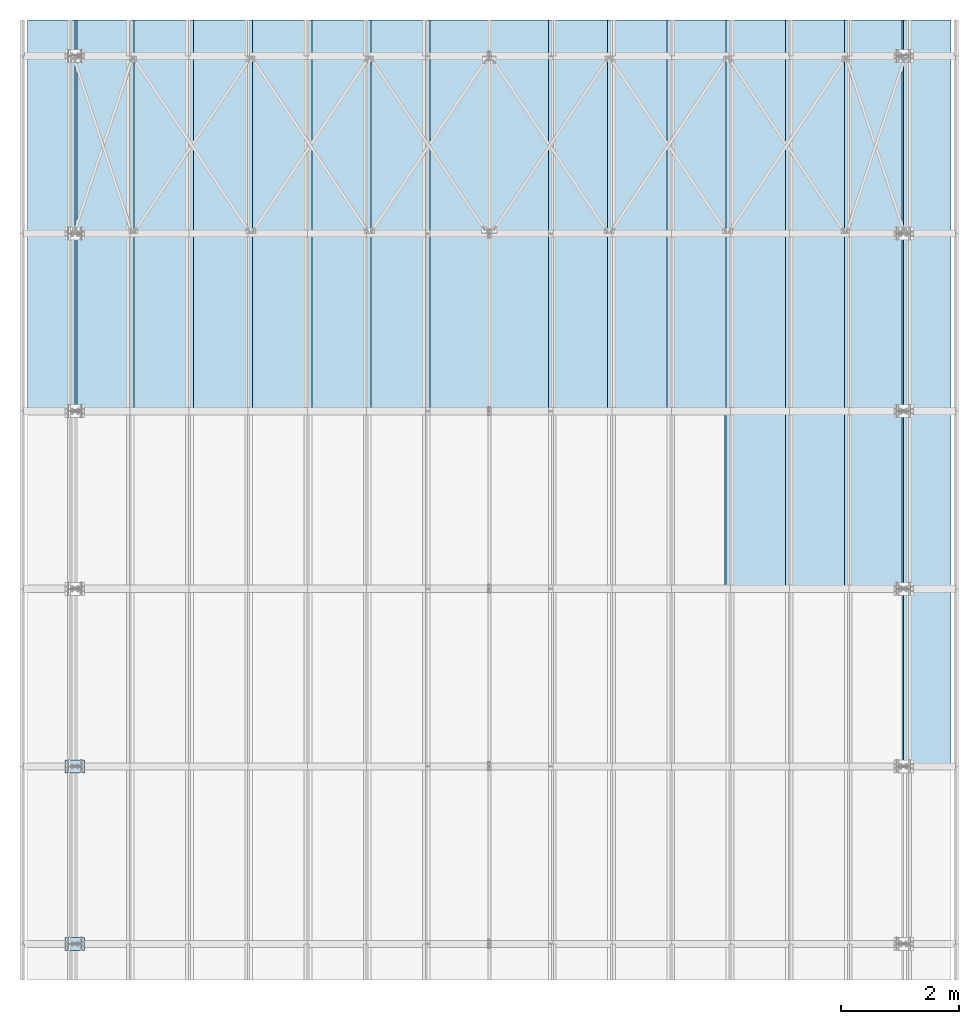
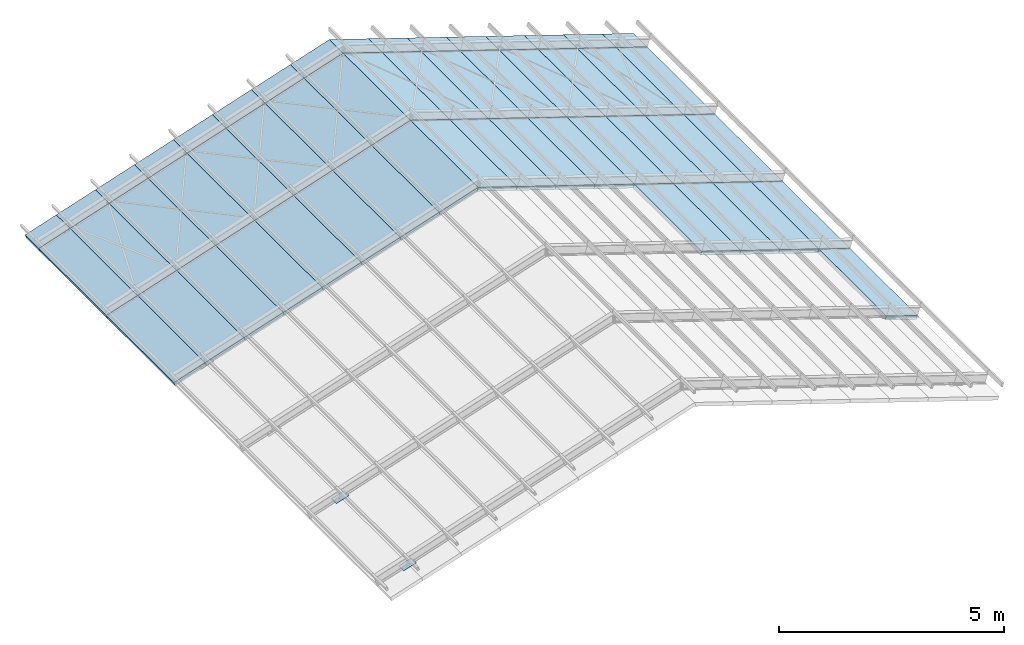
# One storey, part 4 of 53: 53 slabs, 2 plates.
"""IFC4 building model written with IfcOpenShell, lengths in metres."""

from ifc_helpers import new_model, si_unit, frame, origin_with_axes, place, context, project, spatial, polyline, outline, extrude, material, type_object, element, save


model = new_model("IFC4")

# Units and contexts
model_context = context("Model", 3, precision=1e-05, world=origin_with_axes())
ifc_project = project(units=[si_unit("LENGTHUNIT", "METRE"), si_unit("AREAUNIT", "SQUARE_METRE"), si_unit("VOLUMEUNIT", "CUBIC_METRE"), si_unit("MASSUNIT", "GRAM", prefix="KILO"), si_unit("TIMEUNIT", "SECOND"), si_unit("PLANEANGLEUNIT", "RADIAN"), si_unit("SOLIDANGLEUNIT", "STERADIAN"), si_unit("THERMODYNAMICTEMPERATUREUNIT", "DEGREE_CELSIUS")], contexts=[model_context])

# Site, building, storey
placement_1 = place(None, origin_with_axes())
site = spatial("IfcSite", under=ifc_project, at=placement_1, Name="Italia", CompositionType="ELEMENT")
building = spatial("IfcBuilding", under=site, at=placement_1, Name="Capannone", CompositionType="ELEMENT")
storey_placement = place(None, frame((0.0, 0.0, 5.550000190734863), z_axis=(0.0, 0.0, 1.0), x_axis=(1.0, 0.0, 0.0)))
storey = spatial("IfcBuildingStorey", under=building, at=storey_placement, Name="Storey 1", CompositionType="ELEMENT", Elevation=5.550000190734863)

# Plates
plate_type_1 = type_object("IfcPlateType", Name="Collegamenti 0101_0001 0103_0003 0105_0005 0107_0007 0109_0009 0111_0011", PredefinedType="SHEET")
placement_2 = place(placement_1, origin_with_axes())
plate_1_placement = place(placement_2, origin_with_axes())
element("IfcPlate", 1, at=plate_1_placement, inside=storey, type_object=plate_type_1, Name="Collegamenti 0101_0001 0103_0003 0105_0005 0107_0007 0109_0009 0111_0011", context=model_context, shape_type="SweptSolid", body=[
    extrude(outline(polyline([(0.0, 0.0), (0.22, 0.0), (0.22, -0.34504), (0.0, -0.34504), (0.0, 0.0)])), frame((0.163898, 0.11, 5.58806), z_axis=(-0.312147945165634, 0.0, 0.950033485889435), x_axis=(0.0, -1.0, 0.0)), (0.0, 0.0, 1.0), 0.0150003),
])
plate_type_2 = type_object("IfcPlateType", Name="Collegamenti 0101_0001 0103_0003 0105_0005 0107_0007 0109_0009 0111_0011", PredefinedType="SHEET")
plate_2_placement = place(placement_2, origin_with_axes())
element("IfcPlate", 2, at=plate_2_placement, inside=storey, type_object=plate_type_2, Name="Collegamenti 0101_0001 0103_0003 0105_0005 0107_0007 0109_0009 0111_0011", context=model_context, shape_type="SweptSolid", body=[
    extrude(outline(polyline([(0.0, 0.0), (0.22, 0.0), (0.22, -0.34504), (0.0, -0.34504), (0.0, 0.0)])), frame((0.163898, 3.11, 5.58806), z_axis=(-0.312147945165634, 0.0, 0.950033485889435), x_axis=(0.0, -1.0, 0.0)), (0.0, 0.0, 1.0), 0.0150003),
])

# Slabs
ifc_material_1 = material(Name="Concrete", Category="Concrete")
slab_type_1 = type_object("IfcSlabType", Name="1 Copertura", PredefinedType="FLOOR", material=ifc_material_1)
slab_1_placement = place(placement_2, origin_with_axes())
element("IfcSlab", 3, at=slab_1_placement, inside=storey, type_object=slab_type_1, Name="141", context=model_context, shape_type="SweptSolid", body=[
    extrude(outline(polyline([(0.0, 0.0), (0.61, 0.0), (0.61, 1.0526), (0.0, 1.0526), (0.0, 0.0)])), frame((0.0, 15.0, 5.55), z_axis=(0.312152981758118, 0.0, -0.950031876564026), x_axis=(0.0, 1.0, 0.0)), (0.0, 0.0, 1.0), 0.0999999),
])
ifc_material_2 = material(Name="Concrete", Category="Concrete")
slab_type_2 = type_object("IfcSlabType", Name="1 Copertura", PredefinedType="FLOOR", material=ifc_material_2)
slab_2_placement = place(placement_2, origin_with_axes())
element("IfcSlab", 4, at=slab_2_placement, inside=storey, type_object=slab_type_2, Name="142", context=model_context, shape_type="SweptSolid", body=[
    extrude(outline(polyline([(0.0, 0.0), (0.61, 0.0), (0.61, 1.0526), (0.0, 1.0526), (0.0, 0.0)])), frame((1.0, 15.0, 5.87857), z_axis=(0.312153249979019, 0.0, -0.950031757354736), x_axis=(0.0, 1.0, 0.0)), (0.0, 0.0, 1.0), 0.0999999),
])
ifc_material_3 = material(Name="Concrete", Category="Concrete")
slab_type_3 = type_object("IfcSlabType", Name="1 Copertura", PredefinedType="FLOOR", material=ifc_material_3)
slab_3_placement = place(placement_2, origin_with_axes())
element("IfcSlab", 5, at=slab_3_placement, inside=storey, type_object=slab_type_3, Name="143", context=model_context, shape_type="SweptSolid", body=[
    extrude(outline(polyline([(0.0, 0.0), (0.61, 0.0), (0.61, 1.0526), (0.0, 1.0526), (0.0, 0.0)])), frame((2.0, 15.0, 6.20714), z_axis=(0.312154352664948, 0.0, -0.950031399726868), x_axis=(0.0, 1.0, 0.0)), (0.0, 0.0, 1.0), 0.1),
])
ifc_material_4 = material(Name="Concrete", Category="Concrete")
slab_type_4 = type_object("IfcSlabType", Name="1 Copertura", PredefinedType="FLOOR", material=ifc_material_4)
slab_4_placement = place(placement_2, origin_with_axes())
element("IfcSlab", 6, at=slab_4_placement, inside=storey, type_object=slab_type_4, Name="144", context=model_context, shape_type="SweptSolid", body=[
    extrude(outline(polyline([(0.0, 0.0), (0.61, 0.0), (0.61, 1.0526), (0.0, 1.0526), (0.0, 0.0)])), frame((3.0, 15.0, 6.53571), z_axis=(0.312154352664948, 0.0, -0.950031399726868), x_axis=(0.0, 1.0, 0.0)), (0.0, 0.0, 1.0), 0.1),
])
ifc_material_5 = material(Name="Concrete", Category="Concrete")
slab_type_5 = type_object("IfcSlabType", Name="1 Copertura", PredefinedType="FLOOR", material=ifc_material_5)
slab_5_placement = place(placement_2, origin_with_axes())
element("IfcSlab", 7, at=slab_5_placement, inside=storey, type_object=slab_type_5, Name="145", context=model_context, shape_type="SweptSolid", body=[
    extrude(outline(polyline([(0.0, 0.0), (0.61, 0.0), (0.61, 1.0526), (0.0, 1.0526), (0.0, 0.0)])), frame((4.0, 15.0, 6.86429), z_axis=(0.312152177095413, 0.0, -0.950032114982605), x_axis=(0.0, 1.0, 0.0)), (0.0, 0.0, 1.0), 0.0999999),
])
ifc_material_6 = material(Name="Concrete", Category="Concrete")
slab_type_6 = type_object("IfcSlabType", Name="1 Copertura", PredefinedType="FLOOR", material=ifc_material_6)
slab_6_placement = place(placement_2, origin_with_axes())
element("IfcSlab", 8, at=slab_6_placement, inside=storey, type_object=slab_type_6, Name="147", context=model_context, shape_type="SweptSolid", body=[
    extrude(outline(polyline([(0.0, 0.0), (0.61, 0.0), (0.61, 1.0526), (0.0, 1.0526), (0.0, 0.0)])), frame((5.0, 15.0, 7.19286), z_axis=(0.312152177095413, 0.0, -0.950032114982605), x_axis=(0.0, 1.0, 0.0)), (0.0, 0.0, 1.0), 0.0999999),
])
ifc_material_7 = material(Name="Concrete", Category="Concrete")
slab_type_7 = type_object("IfcSlabType", Name="1 Copertura", PredefinedType="FLOOR", material=ifc_material_7)
slab_7_placement = place(placement_2, origin_with_axes())
element("IfcSlab", 9, at=slab_7_placement, inside=storey, type_object=slab_type_7, Name="148", context=model_context, shape_type="SweptSolid", body=[
    extrude(outline(polyline([(0.0, 0.0), (0.61, 0.0), (0.61, 1.0526), (0.0, 1.0526), (0.0, 0.0)])), frame((6.0, 15.0, 7.52143), z_axis=(0.312152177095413, 0.0, -0.950032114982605), x_axis=(0.0, 1.0, 0.0)), (0.0, 0.0, 1.0), 0.0999999),
])
ifc_material_8 = material(Name="Concrete", Category="Concrete")
slab_type_8 = type_object("IfcSlabType", Name="1 Copertura", PredefinedType="FLOOR", material=ifc_material_8)
slab_8_placement = place(placement_2, origin_with_axes())
element("IfcSlab", 10, at=slab_8_placement, inside=storey, type_object=slab_type_8, Name="149", context=model_context, shape_type="SweptSolid", body=[
    extrude(outline(polyline([(0.0, 0.0), (0.61, 0.0), (0.61, 0.842077), (0.0, 0.842077), (0.0, 0.0)])), frame((-0.8, 15.0, 5.28714), z_axis=(0.312153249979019, 0.0, -0.950031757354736), x_axis=(0.0, 1.0, 0.0)), (0.0, 0.0, 1.0), 0.0999999),
])
ifc_material_9 = material(Name="Concrete", Category="Concrete")
slab_type_9 = type_object("IfcSlabType", Name="1 Copertura", PredefinedType="FLOOR", material=ifc_material_9)
slab_9_placement = place(placement_2, origin_with_axes())
element("IfcSlab", 11, at=slab_9_placement, inside=storey, type_object=slab_type_9, Name="150", context=model_context, shape_type="SweptSolid", body=[
    extrude(outline(polyline([(0.0, 0.0), (-0.61, 0.0), (-0.61, 0.842076), (0.0, 0.842076), (0.0, 0.0)])), frame((14.8, 15.0, 5.28714), z_axis=(-0.312156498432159, 0.0, -0.950030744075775), x_axis=(0.0, -1.0, 0.0)), (0.0, 0.0, 1.0), 0.1),
])
ifc_material_10 = material(Name="Concrete", Category="Concrete")
slab_type_10 = type_object("IfcSlabType", Name="1 Copertura", PredefinedType="FLOOR", material=ifc_material_10)
slab_10_placement = place(placement_2, origin_with_axes())
element("IfcSlab", 12, at=slab_10_placement, inside=storey, type_object=slab_type_10, Name="152", context=model_context, shape_type="SweptSolid", body=[
    extrude(outline(polyline([(0.0, 0.0), (-0.61, 0.0), (-0.61, 1.0526), (0.0, 1.0526), (0.0, 0.0)])), frame((8.0, 15.0, 7.52143), z_axis=(-0.312152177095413, 0.0, -0.950032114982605), x_axis=(0.0, -1.0, 0.0)), (0.0, 0.0, 1.0), 0.0999999),
])
ifc_material_11 = material(Name="Concrete", Category="Concrete")
slab_type_11 = type_object("IfcSlabType", Name="1 Copertura", PredefinedType="FLOOR", material=ifc_material_11)
slab_11_placement = place(placement_2, origin_with_axes())
element("IfcSlab", 13, at=slab_11_placement, inside=storey, type_object=slab_type_11, Name="154", context=model_context, shape_type="SweptSolid", body=[
    extrude(outline(polyline([(0.0, 0.0), (-3.0, 0.0), (-3.0, -1.0526), (0.0, -1.0526), (0.0, 0.0)])), frame((13.0, 6.0, 5.87857), z_axis=(-0.312156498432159, 0.0, -0.950030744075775), x_axis=(0.0, -1.0, 0.0)), (0.0, 0.0, 1.0), 0.1),
])
ifc_material_12 = material(Name="Concrete", Category="Concrete")
slab_type_12 = type_object("IfcSlabType", Name="1 Copertura", PredefinedType="FLOOR", material=ifc_material_12)
slab_12_placement = place(placement_2, origin_with_axes())
element("IfcSlab", 14, at=slab_12_placement, inside=storey, type_object=slab_type_12, Name="155", context=model_context, shape_type="SweptSolid", body=[
    extrude(outline(polyline([(0.0, 0.0), (-3.0, 0.0), (-3.0, -1.0526), (0.0, -1.0526), (0.0, 0.0)])), frame((12.0, 6.0, 6.20714), z_axis=(-0.312156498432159, 0.0, -0.950030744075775), x_axis=(0.0, -1.0, 0.0)), (0.0, 0.0, 1.0), 0.1),
])
ifc_material_13 = material(Name="Concrete", Category="Concrete")
slab_type_13 = type_object("IfcSlabType", Name="1 Copertura", PredefinedType="FLOOR", material=ifc_material_13)
slab_13_placement = place(placement_2, origin_with_axes())
element("IfcSlab", 15, at=slab_13_placement, inside=storey, type_object=slab_type_13, Name="156", context=model_context, shape_type="SweptSolid", body=[
    extrude(outline(polyline([(0.0, 0.0), (-3.0, 0.0), (-3.0, -1.0526), (0.0, -1.0526), (0.0, 0.0)])), frame((11.0, 6.0, 6.53571), z_axis=(-0.312156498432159, 0.0, -0.950030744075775), x_axis=(0.0, -1.0, 0.0)), (0.0, 0.0, 1.0), 0.1),
])
ifc_material_14 = material(Name="Concrete", Category="Concrete")
slab_type_14 = type_object("IfcSlabType", Name="1 Copertura", PredefinedType="FLOOR", material=ifc_material_14)
slab_14_placement = place(placement_2, origin_with_axes())
element("IfcSlab", 16, at=slab_14_placement, inside=storey, type_object=slab_type_14, Name="157", context=model_context, shape_type="SweptSolid", body=[
    extrude(outline(polyline([(0.0, 0.0), (-0.61, 0.0), (-0.61, 1.0526), (0.0, 1.0526), (0.0, 0.0)])), frame((9.0, 15.0, 7.19286), z_axis=(-0.312156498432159, 0.0, -0.950030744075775), x_axis=(0.0, -1.0, 0.0)), (0.0, 0.0, 1.0), 0.1),
])
ifc_material_15 = material(Name="Concrete", Category="Concrete")
slab_type_15 = type_object("IfcSlabType", Name="1 Copertura", PredefinedType="FLOOR", material=ifc_material_15)
slab_15_placement = place(placement_2, origin_with_axes())
element("IfcSlab", 17, at=slab_15_placement, inside=storey, type_object=slab_type_15, Name="158", context=model_context, shape_type="SweptSolid", body=[
    extrude(outline(polyline([(0.0, 0.0), (-0.61, 0.0), (-0.61, 1.0526), (0.0, 1.0526), (0.0, 0.0)])), frame((10.0, 15.0, 6.86429), z_axis=(-0.312156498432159, 0.0, -0.950030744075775), x_axis=(0.0, -1.0, 0.0)), (0.0, 0.0, 1.0), 0.1),
])
ifc_material_16 = material(Name="Concrete", Category="Concrete")
slab_type_16 = type_object("IfcSlabType", Name="1 Copertura", PredefinedType="FLOOR", material=ifc_material_16)
slab_16_placement = place(placement_2, origin_with_axes())
element("IfcSlab", 18, at=slab_16_placement, inside=storey, type_object=slab_type_16, Name="165", context=model_context, shape_type="SweptSolid", body=[
    extrude(outline(polyline([(0.0, 0.0), (-0.61, 0.0), (-0.61, 1.0526), (0.0, 1.0526), (0.0, 0.0)])), frame((11.0, 15.0, 6.53571), z_axis=(-0.312156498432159, 0.0, -0.950030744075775), x_axis=(0.0, -1.0, 0.0)), (0.0, 0.0, 1.0), 0.1),
])
ifc_material_17 = material(Name="Concrete", Category="Concrete")
slab_type_17 = type_object("IfcSlabType", Name="1 Copertura", PredefinedType="FLOOR", material=ifc_material_17)
slab_17_placement = place(placement_2, origin_with_axes())
element("IfcSlab", 19, at=slab_17_placement, inside=storey, type_object=slab_type_17, Name="166", context=model_context, shape_type="SweptSolid", body=[
    extrude(outline(polyline([(0.0, 0.0), (-0.61, 0.0), (-0.61, 1.0526), (0.0, 1.0526), (0.0, 0.0)])), frame((12.0, 15.0, 6.20714), z_axis=(-0.312156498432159, 0.0, -0.950030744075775), x_axis=(0.0, -1.0, 0.0)), (0.0, 0.0, 1.0), 0.1),
])
ifc_material_18 = material(Name="Concrete", Category="Concrete")
slab_type_18 = type_object("IfcSlabType", Name="1 Copertura", PredefinedType="FLOOR", material=ifc_material_18)
slab_18_placement = place(placement_2, origin_with_axes())
element("IfcSlab", 20, at=slab_18_placement, inside=storey, type_object=slab_type_18, Name="167", context=model_context, shape_type="SweptSolid", body=[
    extrude(outline(polyline([(0.0, 0.0), (-0.61, 0.0), (-0.61, 1.0526), (0.0, 1.0526), (0.0, 0.0)])), frame((13.0, 15.0, 5.87857), z_axis=(-0.312156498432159, 0.0, -0.950030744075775), x_axis=(0.0, -1.0, 0.0)), (0.0, 0.0, 1.0), 0.1),
])
ifc_material_19 = material(Name="Concrete", Category="Concrete")
slab_type_19 = type_object("IfcSlabType", Name="1 Copertura", PredefinedType="FLOOR", material=ifc_material_19)
slab_19_placement = place(placement_2, origin_with_axes())
element("IfcSlab", 21, at=slab_19_placement, inside=storey, type_object=slab_type_19, Name="168", context=model_context, shape_type="SweptSolid", body=[
    extrude(outline(polyline([(0.0, 0.0), (-0.61, 0.0), (-0.61, 1.0526), (0.0, 1.0526), (0.0, 0.0)])), frame((14.0, 15.0, 5.55), z_axis=(-0.312156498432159, 0.0, -0.950030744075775), x_axis=(0.0, -1.0, 0.0)), (0.0, 0.0, 1.0), 0.1),
])
ifc_material_20 = material(Name="Concrete", Category="Concrete")
slab_type_20 = type_object("IfcSlabType", Name="1 Copertura", PredefinedType="FLOOR", material=ifc_material_20)
slab_20_placement = place(placement_2, origin_with_axes())
element("IfcSlab", 22, at=slab_20_placement, inside=storey, type_object=slab_type_20, Name="173", context=model_context, shape_type="SweptSolid", body=[
    extrude(outline(polyline([(0.0, 0.0), (3.0, 0.0), (3.0, 0.842077), (0.0, 0.842077), (0.0, 0.0)])), frame((-0.8, 9.0, 5.28714), z_axis=(0.312153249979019, 0.0, -0.950031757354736), x_axis=(0.0, 1.0, 0.0)), (0.0, 0.0, 1.0), 0.0999999),
])
ifc_material_21 = material(Name="Concrete", Category="Concrete")
slab_type_21 = type_object("IfcSlabType", Name="1 Copertura", PredefinedType="FLOOR", material=ifc_material_21)
slab_21_placement = place(placement_2, origin_with_axes())
element("IfcSlab", 23, at=slab_21_placement, inside=storey, type_object=slab_type_21, Name="174", context=model_context, shape_type="SweptSolid", body=[
    extrude(outline(polyline([(0.0, 0.0), (3.0, 0.0), (3.0, 0.842077), (0.0, 0.842077), (0.0, 0.0)])), frame((-0.8, 12.0, 5.28714), z_axis=(0.312153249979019, 0.0, -0.950031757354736), x_axis=(0.0, 1.0, 0.0)), (0.0, 0.0, 1.0), 0.0999999),
])
ifc_material_22 = material(Name="Concrete", Category="Concrete")
slab_type_22 = type_object("IfcSlabType", Name="1 Copertura", PredefinedType="FLOOR", material=ifc_material_22)
slab_22_placement = place(placement_2, origin_with_axes())
element("IfcSlab", 24, at=slab_22_placement, inside=storey, type_object=slab_type_22, Name="176", context=model_context, shape_type="SweptSolid", body=[
    extrude(outline(polyline([(0.0, 0.0), (-3.0, 0.0), (-3.0, 0.842076), (0.0, 0.842076), (0.0, 0.0)])), frame((14.8, 12.0, 5.28714), z_axis=(-0.312156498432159, 0.0, -0.950030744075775), x_axis=(0.0, -1.0, 0.0)), (0.0, 0.0, 1.0), 0.1),
])
ifc_material_23 = material(Name="Concrete", Category="Concrete")
slab_type_23 = type_object("IfcSlabType", Name="1 Copertura", PredefinedType="FLOOR", material=ifc_material_23)
slab_23_placement = place(placement_2, origin_with_axes())
element("IfcSlab", 25, at=slab_23_placement, inside=storey, type_object=slab_type_23, Name="180", context=model_context, shape_type="SweptSolid", body=[
    extrude(outline(polyline([(0.0, 0.0), (-3.0, 0.0), (-3.0, -1.0526), (0.0, -1.0526), (0.0, 0.0)])), frame((13.0, 9.0, 5.87857), z_axis=(-0.312156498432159, 0.0, -0.950030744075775), x_axis=(0.0, -1.0, 0.0)), (0.0, 0.0, 1.0), 0.1),
])
ifc_material_24 = material(Name="Concrete", Category="Concrete")
slab_type_24 = type_object("IfcSlabType", Name="1 Copertura", PredefinedType="FLOOR", material=ifc_material_24)
slab_24_placement = place(placement_2, origin_with_axes())
element("IfcSlab", 26, at=slab_24_placement, inside=storey, type_object=slab_type_24, Name="181", context=model_context, shape_type="SweptSolid", body=[
    extrude(outline(polyline([(0.0, 0.0), (-3.0, 0.0), (-3.0, 0.842076), (0.0, 0.842076), (0.0, 0.0)])), frame((14.8, 9.0, 5.28714), z_axis=(-0.312156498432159, 0.0, -0.950030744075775), x_axis=(0.0, -1.0, 0.0)), (0.0, 0.0, 1.0), 0.1),
])
ifc_material_25 = material(Name="Concrete", Category="Concrete")
slab_type_25 = type_object("IfcSlabType", Name="1 Copertura", PredefinedType="FLOOR", material=ifc_material_25)
slab_25_placement = place(placement_2, origin_with_axes())
element("IfcSlab", 27, at=slab_25_placement, inside=storey, type_object=slab_type_25, Name="182", context=model_context, shape_type="SweptSolid", body=[
    extrude(outline(polyline([(0.0, 0.0), (-3.0, 0.0), (-3.0, 0.842076), (0.0, 0.842076), (0.0, 0.0)])), frame((14.8, 6.0, 5.28714), z_axis=(-0.312156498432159, 0.0, -0.950030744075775), x_axis=(0.0, -1.0, 0.0)), (0.0, 0.0, 1.0), 0.1),
])
ifc_material_26 = material(Name="Concrete", Category="Concrete")
slab_type_26 = type_object("IfcSlabType", Name="1 Copertura", PredefinedType="FLOOR", material=ifc_material_26)
slab_26_placement = place(placement_2, origin_with_axes())
element("IfcSlab", 28, at=slab_26_placement, inside=storey, type_object=slab_type_26, Name="183", context=model_context, shape_type="SweptSolid", body=[
    extrude(outline(polyline([(0.0, 0.0), (-3.0, 0.0), (-3.0, -1.0526), (0.0, -1.0526), (0.0, 0.0)])), frame((12.0, 9.0, 6.20714), z_axis=(-0.312156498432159, 0.0, -0.950030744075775), x_axis=(0.0, -1.0, 0.0)), (0.0, 0.0, 1.0), 0.1),
])
ifc_material_27 = material(Name="Concrete", Category="Concrete")
slab_type_27 = type_object("IfcSlabType", Name="1 Copertura", PredefinedType="FLOOR", material=ifc_material_27)
slab_27_placement = place(placement_2, origin_with_axes())
element("IfcSlab", 29, at=slab_27_placement, inside=storey, type_object=slab_type_27, Name="184", context=model_context, shape_type="SweptSolid", body=[
    extrude(outline(polyline([(0.0, 0.0), (-3.0, 0.0), (-3.0, -1.0526), (0.0, -1.0526), (0.0, 0.0)])), frame((11.0, 9.0, 6.53571), z_axis=(-0.312156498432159, 0.0, -0.950030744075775), x_axis=(0.0, -1.0, 0.0)), (0.0, 0.0, 1.0), 0.1),
])
ifc_material_28 = material(Name="Concrete", Category="Concrete")
slab_type_28 = type_object("IfcSlabType", Name="1 Copertura", PredefinedType="FLOOR", material=ifc_material_28)
slab_28_placement = place(placement_2, origin_with_axes())
element("IfcSlab", 30, at=slab_28_placement, inside=storey, type_object=slab_type_28, Name="185", context=model_context, shape_type="SweptSolid", body=[
    extrude(outline(polyline([(0.0, 0.0), (-3.0, 0.0), (-3.0, -1.0526), (0.0, -1.0526), (0.0, 0.0)])), frame((10.0, 9.0, 6.86429), z_axis=(-0.312156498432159, 0.0, -0.950030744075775), x_axis=(0.0, -1.0, 0.0)), (0.0, 0.0, 1.0), 0.1),
])
ifc_material_29 = material(Name="Concrete", Category="Concrete")
slab_type_29 = type_object("IfcSlabType", Name="1 Copertura", PredefinedType="FLOOR", material=ifc_material_29)
slab_29_placement = place(placement_2, origin_with_axes())
element("IfcSlab", 31, at=slab_29_placement, inside=storey, type_object=slab_type_29, Name="186", context=model_context, shape_type="SweptSolid", body=[
    extrude(outline(polyline([(0.0, 0.0), (-3.0, 0.0), (-3.0, -1.0526), (0.0, -1.0526), (0.0, 0.0)])), frame((9.0, 9.0, 7.19286), z_axis=(-0.312156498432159, 0.0, -0.950030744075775), x_axis=(0.0, -1.0, 0.0)), (0.0, 0.0, 1.0), 0.1),
])
ifc_material_30 = material(Name="Concrete", Category="Concrete")
slab_type_30 = type_object("IfcSlabType", Name="1 Copertura", PredefinedType="FLOOR", material=ifc_material_30)
slab_30_placement = place(placement_2, origin_with_axes())
element("IfcSlab", 32, at=slab_30_placement, inside=storey, type_object=slab_type_30, Name="187", context=model_context, shape_type="SweptSolid", body=[
    extrude(outline(polyline([(0.0, 0.0), (-3.0, 0.0), (-3.0, -1.0526), (0.0, -1.0526), (0.0, 0.0)])), frame((8.0, 9.0, 7.52143), z_axis=(-0.312152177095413, 0.0, -0.950032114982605), x_axis=(0.0, -1.0, 0.0)), (0.0, 0.0, 1.0), 0.0999999),
])
ifc_material_31 = material(Name="Concrete", Category="Concrete")
slab_type_31 = type_object("IfcSlabType", Name="1 Copertura", PredefinedType="FLOOR", material=ifc_material_31)
slab_31_placement = place(placement_2, origin_with_axes())
element("IfcSlab", 33, at=slab_31_placement, inside=storey, type_object=slab_type_31, Name="188", context=model_context, shape_type="SweptSolid", body=[
    extrude(outline(polyline([(0.0, 0.0), (-3.0, 0.0), (-3.0, -1.0526), (0.0, -1.0526), (0.0, 0.0)])), frame((7.0, 9.0, 7.85), z_axis=(-0.312152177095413, 0.0, -0.950032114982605), x_axis=(0.0, -1.0, 0.0)), (0.0, 0.0, 1.0), 0.0999999),
])
ifc_material_32 = material(Name="Concrete", Category="Concrete")
slab_type_32 = type_object("IfcSlabType", Name="1 Copertura", PredefinedType="FLOOR", material=ifc_material_32)
slab_32_placement = place(placement_2, origin_with_axes())
element("IfcSlab", 34, at=slab_32_placement, inside=storey, type_object=slab_type_32, Name="189", context=model_context, shape_type="SweptSolid", body=[
    extrude(outline(polyline([(0.0, 0.0), (3.0, 0.0), (3.0, -1.0526), (0.0, -1.0526), (0.0, 0.0)])), frame((7.0, 9.0, 7.85), z_axis=(0.312152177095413, 0.0, -0.950032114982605), x_axis=(0.0, 1.0, 0.0)), (0.0, 0.0, 1.0), 0.0999999),
])
ifc_material_33 = material(Name="Concrete", Category="Concrete")
slab_type_33 = type_object("IfcSlabType", Name="1 Copertura", PredefinedType="FLOOR", material=ifc_material_33)
slab_33_placement = place(placement_2, origin_with_axes())
element("IfcSlab", 35, at=slab_33_placement, inside=storey, type_object=slab_type_33, Name="190", context=model_context, shape_type="SweptSolid", body=[
    extrude(outline(polyline([(0.0, 0.0), (3.0, 0.0), (3.0, -1.0526), (0.0, -1.0526), (0.0, 0.0)])), frame((6.0, 9.0, 7.52143), z_axis=(0.312152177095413, 0.0, -0.950032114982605), x_axis=(0.0, 1.0, 0.0)), (0.0, 0.0, 1.0), 0.0999999),
])
ifc_material_34 = material(Name="Concrete", Category="Concrete")
slab_type_34 = type_object("IfcSlabType", Name="1 Copertura", PredefinedType="FLOOR", material=ifc_material_34)
slab_34_placement = place(placement_2, origin_with_axes())
element("IfcSlab", 36, at=slab_34_placement, inside=storey, type_object=slab_type_34, Name="191", context=model_context, shape_type="SweptSolid", body=[
    extrude(outline(polyline([(0.0, 0.0), (3.0, 0.0), (3.0, -1.0526), (0.0, -1.0526), (0.0, 0.0)])), frame((5.0, 9.0, 7.19286), z_axis=(0.312152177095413, 0.0, -0.950032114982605), x_axis=(0.0, 1.0, 0.0)), (0.0, 0.0, 1.0), 0.0999999),
])
ifc_material_35 = material(Name="Concrete", Category="Concrete")
slab_type_35 = type_object("IfcSlabType", Name="1 Copertura", PredefinedType="FLOOR", material=ifc_material_35)
slab_35_placement = place(placement_2, origin_with_axes())
element("IfcSlab", 37, at=slab_35_placement, inside=storey, type_object=slab_type_35, Name="192", context=model_context, shape_type="SweptSolid", body=[
    extrude(outline(polyline([(0.0, 0.0), (3.0, 0.0), (3.0, -1.0526), (0.0, -1.0526), (0.0, 0.0)])), frame((4.0, 9.0, 6.86429), z_axis=(0.312152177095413, 0.0, -0.950032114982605), x_axis=(0.0, 1.0, 0.0)), (0.0, 0.0, 1.0), 0.0999999),
])
ifc_material_36 = material(Name="Concrete", Category="Concrete")
slab_type_36 = type_object("IfcSlabType", Name="1 Copertura", PredefinedType="FLOOR", material=ifc_material_36)
slab_36_placement = place(placement_2, origin_with_axes())
element("IfcSlab", 38, at=slab_36_placement, inside=storey, type_object=slab_type_36, Name="193", context=model_context, shape_type="SweptSolid", body=[
    extrude(outline(polyline([(0.0, 0.0), (-3.0, 0.0), (-3.0, 0.842076), (0.0, 0.842076), (0.0, 0.0)])), frame((14.8, 3.0, 5.28714), z_axis=(-0.312156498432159, 0.0, -0.950030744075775), x_axis=(0.0, -1.0, 0.0)), (0.0, 0.0, 1.0), 0.1),
])
ifc_material_37 = material(Name="Concrete", Category="Concrete")
slab_type_37 = type_object("IfcSlabType", Name="1 Copertura", PredefinedType="FLOOR", material=ifc_material_37)
slab_37_placement = place(placement_2, origin_with_axes())
element("IfcSlab", 39, at=slab_37_placement, inside=storey, type_object=slab_type_37, Name="194", context=model_context, shape_type="SweptSolid", body=[
    extrude(outline(polyline([(0.0, 0.0), (3.0, 0.0), (3.0, -1.0526), (0.0, -1.0526), (0.0, 0.0)])), frame((3.0, 9.0, 6.53571), z_axis=(0.312154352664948, 0.0, -0.950031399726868), x_axis=(0.0, 1.0, 0.0)), (0.0, 0.0, 1.0), 0.1),
])
ifc_material_38 = material(Name="Concrete", Category="Concrete")
slab_type_38 = type_object("IfcSlabType", Name="1 Copertura", PredefinedType="FLOOR", material=ifc_material_38)
slab_38_placement = place(placement_2, origin_with_axes())
element("IfcSlab", 40, at=slab_38_placement, inside=storey, type_object=slab_type_38, Name="195", context=model_context, shape_type="SweptSolid", body=[
    extrude(outline(polyline([(0.0, 0.0), (3.0, 0.0), (3.0, -1.0526), (0.0, -1.0526), (0.0, 0.0)])), frame((2.0, 9.0, 6.20714), z_axis=(0.312154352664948, 0.0, -0.950031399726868), x_axis=(0.0, 1.0, 0.0)), (0.0, 0.0, 1.0), 0.1),
])
ifc_material_39 = material(Name="Concrete", Category="Concrete")
slab_type_39 = type_object("IfcSlabType", Name="1 Copertura", PredefinedType="FLOOR", material=ifc_material_39)
slab_39_placement = place(placement_2, origin_with_axes())
element("IfcSlab", 41, at=slab_39_placement, inside=storey, type_object=slab_type_39, Name="196", context=model_context, shape_type="SweptSolid", body=[
    extrude(outline(polyline([(0.0, 0.0), (3.0, 0.0), (3.0, -1.0526), (0.0, -1.0526), (0.0, 0.0)])), frame((1.0, 9.0, 5.87857), z_axis=(0.312153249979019, 0.0, -0.950031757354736), x_axis=(0.0, 1.0, 0.0)), (0.0, 0.0, 1.0), 0.0999999),
])
ifc_material_40 = material(Name="Concrete", Category="Concrete")
slab_type_40 = type_object("IfcSlabType", Name="1 Copertura", PredefinedType="FLOOR", material=ifc_material_40)
slab_40_placement = place(placement_2, origin_with_axes())
element("IfcSlab", 42, at=slab_40_placement, inside=storey, type_object=slab_type_40, Name="198", context=model_context, shape_type="SweptSolid", body=[
    extrude(outline(polyline([(0.0, 0.0), (3.0, -2.38419e-07), (3.0, -1.0526), (0.0, -1.0526), (0.0, 0.0)])), frame((1.0, 12.0, 5.87857), z_axis=(0.312153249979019, 0.0, -0.950031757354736), x_axis=(0.0, 1.0, 0.0)), (0.0, 0.0, 1.0), 0.0999999),
])
ifc_material_41 = material(Name="Concrete", Category="Concrete")
slab_type_41 = type_object("IfcSlabType", Name="1 Copertura", PredefinedType="FLOOR", material=ifc_material_41)
slab_41_placement = place(placement_2, origin_with_axes())
element("IfcSlab", 43, at=slab_41_placement, inside=storey, type_object=slab_type_41, Name="199", context=model_context, shape_type="SweptSolid", body=[
    extrude(outline(polyline([(0.0, 0.0), (0.0, -1.0526), (-3.0, -1.0526), (-3.0, 0.0), (0.0, 0.0)])), frame((2.0, 15.0, 6.20714), z_axis=(0.312154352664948, 0.0, -0.950031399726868), x_axis=(0.0, 1.0, 0.0)), (0.0, 0.0, 1.0), 0.1),
])
ifc_material_42 = material(Name="Concrete", Category="Concrete")
slab_type_42 = type_object("IfcSlabType", Name="1 Copertura", PredefinedType="FLOOR", material=ifc_material_42)
slab_42_placement = place(placement_2, origin_with_axes())
element("IfcSlab", 44, at=slab_42_placement, inside=storey, type_object=slab_type_42, Name="200", context=model_context, shape_type="SweptSolid", body=[
    extrude(outline(polyline([(0.0, 0.0), (0.0, -1.0526), (-3.0, -1.0526), (-3.0, 0.0), (0.0, 0.0)])), frame((3.0, 15.0, 6.53571), z_axis=(0.312154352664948, 0.0, -0.950031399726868), x_axis=(0.0, 1.0, 0.0)), (0.0, 0.0, 1.0), 0.1),
])
ifc_material_43 = material(Name="Concrete", Category="Concrete")
slab_type_43 = type_object("IfcSlabType", Name="1 Copertura", PredefinedType="FLOOR", material=ifc_material_43)
slab_43_placement = place(placement_2, origin_with_axes())
element("IfcSlab", 45, at=slab_43_placement, inside=storey, type_object=slab_type_43, Name="201", context=model_context, shape_type="SweptSolid", body=[
    extrude(outline(polyline([(0.0, 0.0), (0.0, -1.0526), (-3.0, -1.0526), (-3.0, 0.0), (0.0, 0.0)])), frame((4.0, 15.0, 6.86429), z_axis=(0.312152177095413, 0.0, -0.950032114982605), x_axis=(0.0, 1.0, 0.0)), (0.0, 0.0, 1.0), 0.0999999),
])
ifc_material_44 = material(Name="Concrete", Category="Concrete")
slab_type_44 = type_object("IfcSlabType", Name="1 Copertura", PredefinedType="FLOOR", material=ifc_material_44)
slab_44_placement = place(placement_2, origin_with_axes())
element("IfcSlab", 46, at=slab_44_placement, inside=storey, type_object=slab_type_44, Name="202", context=model_context, shape_type="SweptSolid", body=[
    extrude(outline(polyline([(0.0, 0.0), (0.0, -1.0526), (-3.0, -1.0526), (-3.0, 0.0), (0.0, 0.0)])), frame((5.0, 15.0, 7.19286), z_axis=(0.312152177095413, 0.0, -0.950032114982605), x_axis=(0.0, 1.0, 0.0)), (0.0, 0.0, 1.0), 0.0999999),
])
ifc_material_45 = material(Name="Concrete", Category="Concrete")
slab_type_45 = type_object("IfcSlabType", Name="1 Copertura", PredefinedType="FLOOR", material=ifc_material_45)
slab_45_placement = place(placement_2, origin_with_axes())
element("IfcSlab", 47, at=slab_45_placement, inside=storey, type_object=slab_type_45, Name="203", context=model_context, shape_type="SweptSolid", body=[
    extrude(outline(polyline([(0.0, 0.0), (0.0, -1.0526), (-3.0, -1.0526), (-3.0, 0.0), (0.0, 0.0)])), frame((6.0, 15.0, 7.52143), z_axis=(0.312152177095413, 0.0, -0.950032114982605), x_axis=(0.0, 1.0, 0.0)), (0.0, 0.0, 1.0), 0.0999999),
])
ifc_material_46 = material(Name="Concrete", Category="Concrete")
slab_type_46 = type_object("IfcSlabType", Name="1 Copertura", PredefinedType="FLOOR", material=ifc_material_46)
slab_46_placement = place(placement_2, origin_with_axes())
element("IfcSlab", 48, at=slab_46_placement, inside=storey, type_object=slab_type_46, Name="204", context=model_context, shape_type="SweptSolid", body=[
    extrude(outline(polyline([(0.0, 0.0), (0.0, -1.0526), (-3.0, -1.0526), (-3.0, 0.0), (0.0, 0.0)])), frame((7.0, 15.0, 7.85), z_axis=(0.312152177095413, 0.0, -0.950032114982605), x_axis=(0.0, 1.0, 0.0)), (0.0, 0.0, 1.0), 0.0999999),
])
ifc_material_47 = material(Name="Concrete", Category="Concrete")
slab_type_47 = type_object("IfcSlabType", Name="1 Copertura", PredefinedType="FLOOR", material=ifc_material_47)
slab_47_placement = place(placement_2, origin_with_axes())
element("IfcSlab", 49, at=slab_47_placement, inside=storey, type_object=slab_type_47, Name="205", context=model_context, shape_type="SweptSolid", body=[
    extrude(outline(polyline([(0.0, 0.0), (-3.0, 0.0), (-3.0, -1.0526), (0.0, -1.0526), (0.0, 0.0)])), frame((8.0, 12.0, 7.52143), z_axis=(-0.312152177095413, 0.0, -0.950032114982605), x_axis=(0.0, -1.0, 0.0)), (0.0, 0.0, 1.0), 0.0999999),
])
ifc_material_48 = material(Name="Concrete", Category="Concrete")
slab_type_48 = type_object("IfcSlabType", Name="1 Copertura", PredefinedType="FLOOR", material=ifc_material_48)
slab_48_placement = place(placement_2, origin_with_axes())
element("IfcSlab", 50, at=slab_48_placement, inside=storey, type_object=slab_type_48, Name="206", context=model_context, shape_type="SweptSolid", body=[
    extrude(outline(polyline([(0.0, 0.0), (-3.0, 0.0), (-3.0, -1.0526), (0.0, -1.0526), (0.0, 0.0)])), frame((7.0, 12.0, 7.85), z_axis=(-0.312152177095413, 0.0, -0.950032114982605), x_axis=(0.0, -1.0, 0.0)), (0.0, 0.0, 1.0), 0.0999999),
])
ifc_material_49 = material(Name="Concrete", Category="Concrete")
slab_type_49 = type_object("IfcSlabType", Name="1 Copertura", PredefinedType="FLOOR", material=ifc_material_49)
slab_49_placement = place(placement_2, origin_with_axes())
element("IfcSlab", 51, at=slab_49_placement, inside=storey, type_object=slab_type_49, Name="207", context=model_context, shape_type="SweptSolid", body=[
    extrude(outline(polyline([(0.0, 0.0), (-3.0, 0.0), (-3.0, -1.0526), (0.0, -1.0526), (0.0, 0.0)])), frame((10.0, 12.0, 6.86429), z_axis=(-0.312156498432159, 0.0, -0.950030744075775), x_axis=(0.0, -1.0, 0.0)), (0.0, 0.0, 1.0), 0.1),
])
ifc_material_50 = material(Name="Concrete", Category="Concrete")
slab_type_50 = type_object("IfcSlabType", Name="1 Copertura", PredefinedType="FLOOR", material=ifc_material_50)
slab_50_placement = place(placement_2, origin_with_axes())
element("IfcSlab", 52, at=slab_50_placement, inside=storey, type_object=slab_type_50, Name="208", context=model_context, shape_type="SweptSolid", body=[
    extrude(outline(polyline([(0.0, 0.0), (-3.0, 0.0), (-3.0, -1.0526), (0.0, -1.0526), (0.0, 0.0)])), frame((9.0, 12.0, 7.19286), z_axis=(-0.312156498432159, 0.0, -0.950030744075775), x_axis=(0.0, -1.0, 0.0)), (0.0, 0.0, 1.0), 0.1),
])
ifc_material_51 = material(Name="Concrete", Category="Concrete")
slab_type_51 = type_object("IfcSlabType", Name="1 Copertura", PredefinedType="FLOOR", material=ifc_material_51)
slab_51_placement = place(placement_2, origin_with_axes())
element("IfcSlab", 53, at=slab_51_placement, inside=storey, type_object=slab_type_51, Name="209", context=model_context, shape_type="SweptSolid", body=[
    extrude(outline(polyline([(0.0, 0.0), (-3.0, 0.0), (-3.0, -1.0526), (0.0, -1.0526), (0.0, 0.0)])), frame((12.0, 12.0, 6.20714), z_axis=(-0.312156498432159, 0.0, -0.950030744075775), x_axis=(0.0, -1.0, 0.0)), (0.0, 0.0, 1.0), 0.1),
])
ifc_material_52 = material(Name="Concrete", Category="Concrete")
slab_type_52 = type_object("IfcSlabType", Name="1 Copertura", PredefinedType="FLOOR", material=ifc_material_52)
slab_52_placement = place(placement_2, origin_with_axes())
element("IfcSlab", 54, at=slab_52_placement, inside=storey, type_object=slab_type_52, Name="210", context=model_context, shape_type="SweptSolid", body=[
    extrude(outline(polyline([(0.0, 0.0), (-3.0, 0.0), (-3.0, -1.0526), (0.0, -1.0526), (0.0, 0.0)])), frame((11.0, 12.0, 6.53571), z_axis=(-0.312156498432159, 0.0, -0.950030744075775), x_axis=(0.0, -1.0, 0.0)), (0.0, 0.0, 1.0), 0.1),
])
ifc_material_53 = material(Name="Concrete", Category="Concrete")
slab_type_53 = type_object("IfcSlabType", Name="1 Copertura", PredefinedType="FLOOR", material=ifc_material_53)
slab_53_placement = place(placement_2, origin_with_axes())
element("IfcSlab", 55, at=slab_53_placement, inside=storey, type_object=slab_type_53, Name="211", context=model_context, shape_type="SweptSolid", body=[
    extrude(outline(polyline([(0.0, 0.0), (-3.0, 0.0), (-3.0, -1.0526), (0.0, -1.0526), (0.0, 0.0)])), frame((13.0, 12.0, 5.87857), z_axis=(-0.312156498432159, 0.0, -0.950030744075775), x_axis=(0.0, -1.0, 0.0)), (0.0, 0.0, 1.0), 0.1),
])

save(model, "model.ifc")
